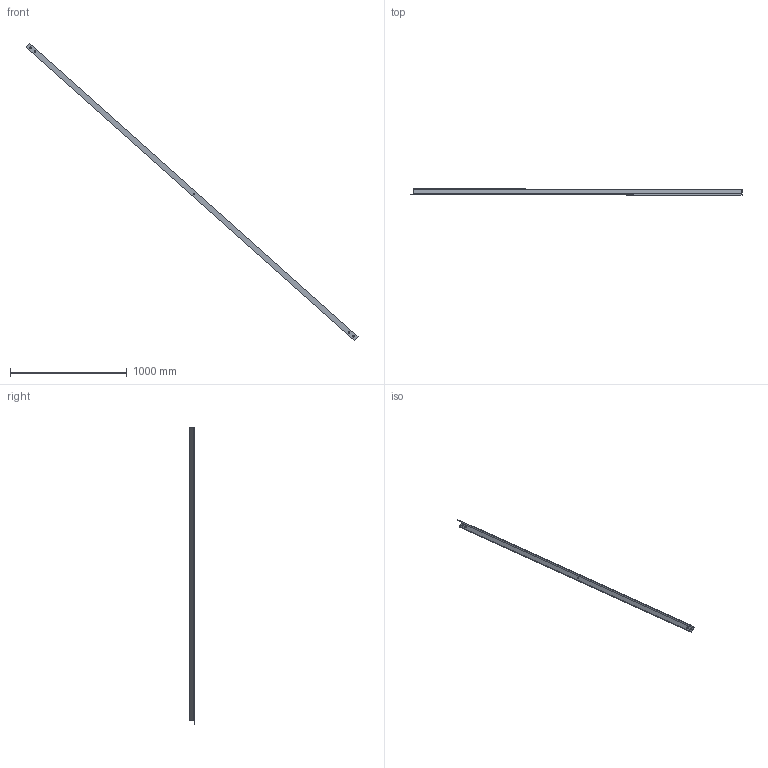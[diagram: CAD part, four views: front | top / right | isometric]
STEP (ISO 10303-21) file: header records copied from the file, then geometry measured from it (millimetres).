
FILE_DESCRIPTION (( 'STEP AP214' ), '1' );
FILE_NAME ('CCJ029-REP.070 - CONTREVENTEMENT SUPERIEUR C1-C3.STEP', '2024-01-31T09:40:11', ( '' ), ( '' ), 'SwSTEP 2.0', 'SolidWorks 2021', '' );
FILE_SCHEMA (( 'AUTOMOTIVE_DESIGN' ));
Length unit declared in the file: millimetre
Products named in the file (1): CCJ029-REP.070 - CONTREVENTEMENT SUPERIEUR C1-C3
Bounding box: 2846.87 x 50 x 2550.73 mm (x, y, z)
Volume: 1808036.9 mm3; surface area: 732398 mm2
Topology: 1 solids, 1 shells, 21 faces, 57 edges, 38 vertices
Faces by surface type: cylinder 13, plane 8
Entity records: 731 total; most frequent: DIRECTION 127, CARTESIAN_POINT 117, ORIENTED_EDGE 114, EDGE_CURVE 57, AXIS2_PLACEMENT_3D 48, VERTEX_POINT 38, VECTOR 31, LINE 31
